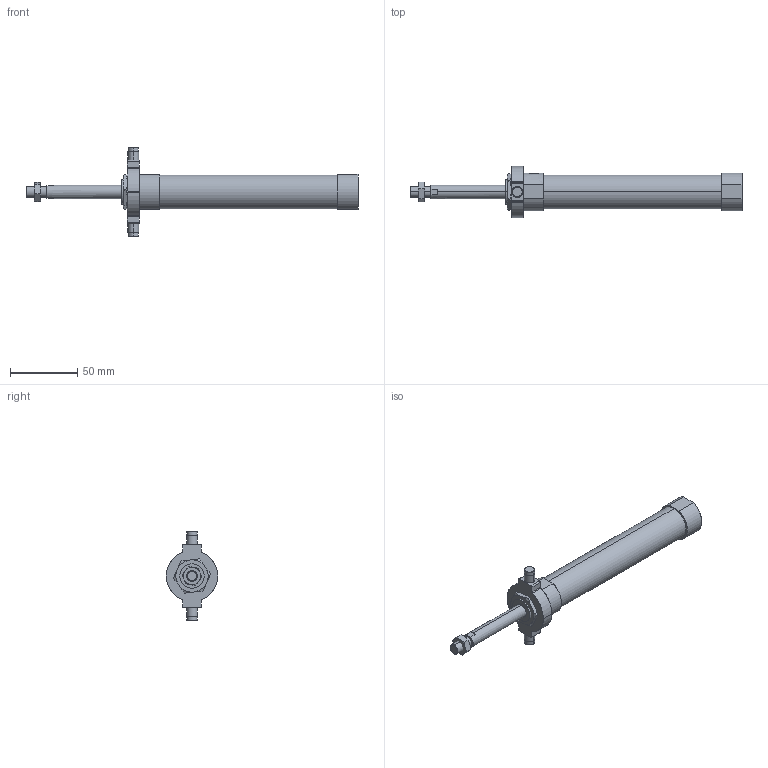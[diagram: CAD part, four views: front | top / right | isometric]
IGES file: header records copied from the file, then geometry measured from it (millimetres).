
Start section: SolidWorks IGES file using analytic representation for surfaces
Global section: file name: C:\Users\Toshiba\Desktop\JGND0-20-50-T.IGS; native system: SolidWorks 2014; preprocessor: SolidWorks 2014; author: Toshiba; date: 160804.100813; units: millimetre
Bounding box: 246 x 38 x 66 mm (x, y, z)
Surface area: 23339 mm2 (no closed solid volume)
Topology: 0 solids, 0 shells, 120 faces, 1866 edges, 1866 vertices
Faces by surface type: bspline 67, revolution 53
